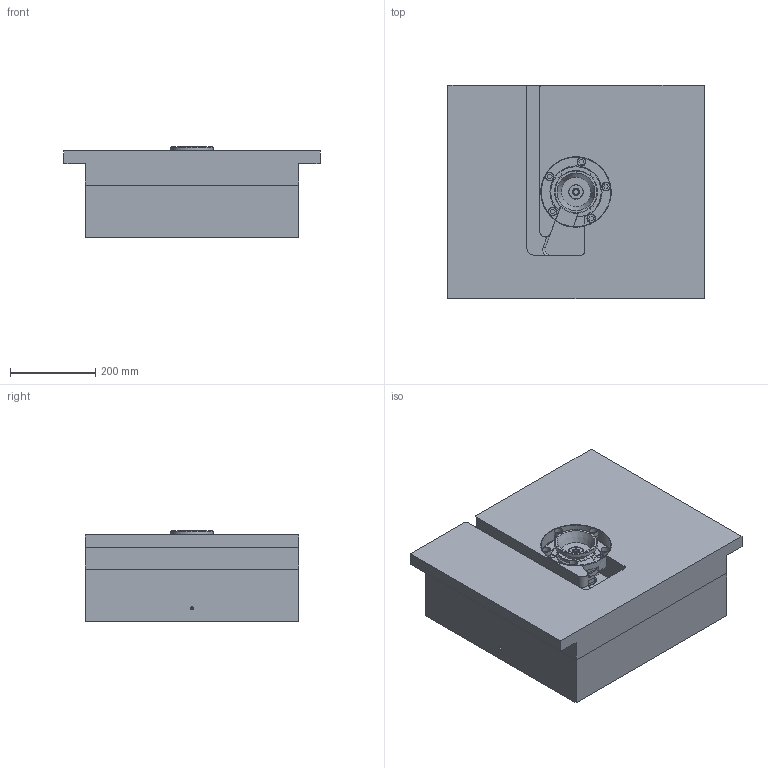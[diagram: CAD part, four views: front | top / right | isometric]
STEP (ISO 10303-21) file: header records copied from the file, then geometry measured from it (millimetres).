
FILE_DESCRIPTION( ( 'STEP AP214' ), '1' );
FILE_NAME( 'Z:/PROIECTE_YUDO_2009_dupa_1.07.2009/PROIECTE YUDO 3D 01.07.2009/SAS/YUEU09-SAS42LVF160_5/SAS42LVF160_STRAIGHT_5.step', '2009-09-10T08:03:09', ( ' ' ), ( ' ' ), 'XStep 1.0', ' ', ' ' );
FILE_SCHEMA( ( 'automotive_design' ) );
Length unit declared in the file: millimetre
Products named in the file (27): 1; 2; 3; 4; 5; 6; 7; 8; 9; 10; 11; 12; 13; 14; 15; 16; 17; 18; 19; 20; 21; 22; 23; 24; 25; 26; 27
Bounding box: 600 x 500 x 212.5 mm (x, y, z)
Volume: 50991803.1 mm3; surface area: 1842023.2 mm2
Topology: 27 solids, 27 shells, 659 faces, 1433 edges, 939 vertices
Faces by surface type: plane 351, cylinder 209, cone 79, torus 17, bspline 3
Full cylindrical faces by diameter (mm): 2.5 x2, 3.6 x2, 5 x2, 5.34 x8, 5.35 x16, 6 x18, 7 x14, 10 x10, 11.34 x5, 11.35 x10, 12 x5, 12.5 x1, 13 x5, 14 x5, 19 x5, 20 x5, 25 x2, 28 x1, 33 x2, 36 x1, 39 x1, 42 x4, 43.5 x1, 48 x3, 51.4 x1, 57 x1, 58 x1, 60.8 x1, 67 x3, 76 x2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
Entity records: 22431 total; most frequent: CARTESIAN_POINT 3210, DIRECTION 2969, ORIENTED_EDGE 2262, AXIS2_PLACEMENT_3D 1206, EDGE_CURVE 1131, EDGE_LOOP 1029, VERTEX_POINT 881, FACE_OUTER_BOUND 825
